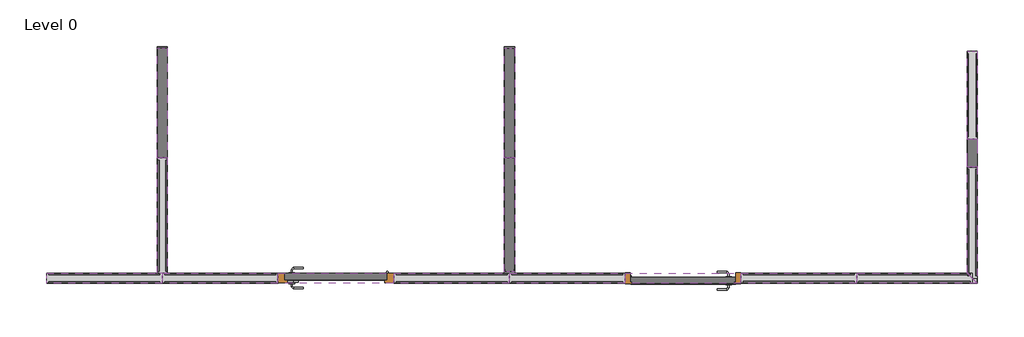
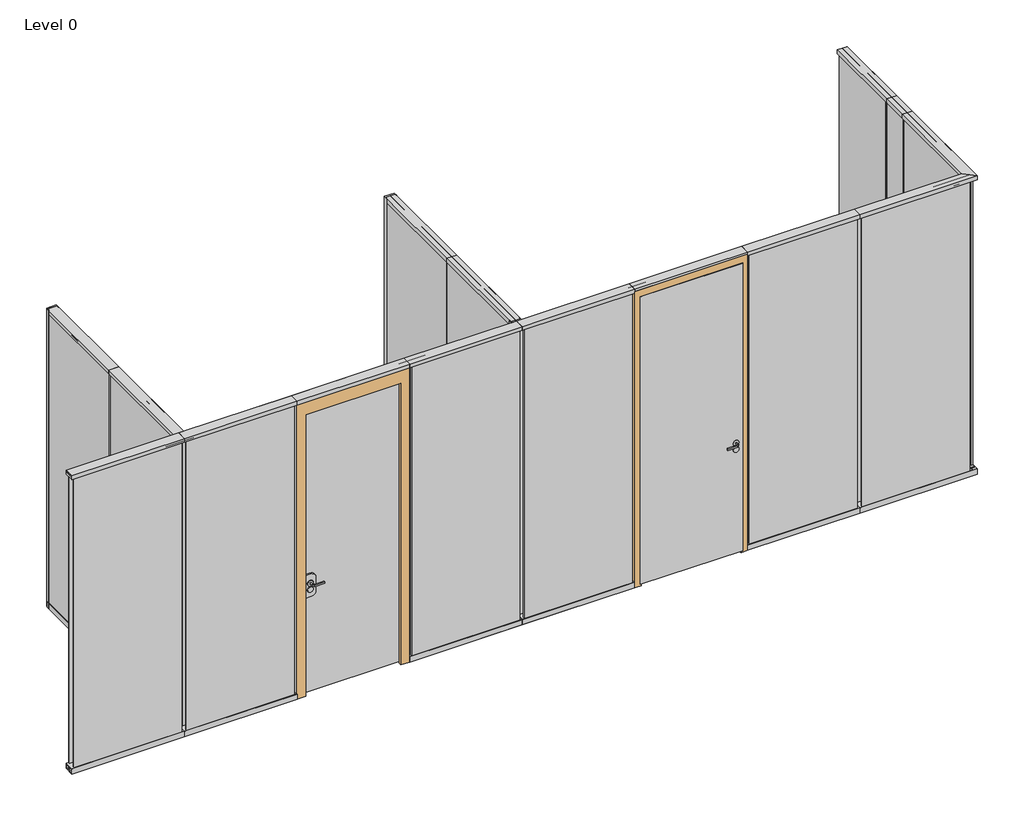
# One storey: 37 members, 16 plates, 2 doors, 2 proxies.
"""IFC4 building model written with IfcOpenShell, lengths in millimetres."""

from ifc_helpers import new_model, si_unit, origin, place, context, project, spatial, transform, mapped, element, save
from components import bat_m_6d0092cd, bat_m_2c35a260, door_8205e40b, door_bbba8e17, rectangular_mullion_08eab6f5, rectangular_mullion_90eb53d2, rectangular_mullion_5bdb3d18, rectangular_mullion_48ac8d12, rectangular_mullion_55831f8c, rectangular_mullion_2d9f5674, rectangular_mullion_78ad2c18, rectangular_mullion_06072e69, rectangular_mullion_d56148ed, rectangular_mullion_4f8e2eee, rectangular_mullion_606d2f1e, rectangular_mullion_87e775cd, rectangular_mullion_4e6522d5, rectangular_mullion_cce67675, rectangular_mullion_783a4c04, rectangular_mullion_9d9a7ddc, rectangular_mullion_2559ebc3, rectangular_mullion_cb49bed4, rectangular_mullion_af89d6a5, rectangular_mullion_junction_t1_94_t1_785bb957, plate_94_abm35_0e953f24, plate_94_abm35_25a5ff41, glazing_panel_dg_94_kdv1012_681713af, glazing_panel_dg_94_kdv1012_3f67e66a, glazing_panel_dg_94_kdv1012_88132442, glazing_panel_dg_94_kdv1012_3d991146, glazing_panel_dg_94_kdv1012_358c8b5d, glazing_panel_dg_94_kdv1012_673c4e6c, glazing_panel_dg_94_kdv6_8_02496a73, solid_panel_94_m_723be7b3, solid_panel_94_m_92e32ffe, solid_panel_94_m_255e5a5e, solid_panel_94_m_92d8dfe8

model = new_model("IFC4")

# Units and contexts
model_context = context("Model", 3, world=origin())
ifc_project = project(units=[si_unit("LENGTHUNIT", "METRE", prefix="MILLI")], contexts=[model_context])

# Site, building, storey
site = spatial("IfcSite", under=ifc_project)
building = spatial("IfcBuilding", under=site)
storey = spatial("IfcBuildingStorey", under=building, Name="Level 0", Elevation=0.0)

# Proxies
placement = place(None, origin())
bat_m_shape = bat_m_6d0092cd(model_context)
element("IfcBuildingElementProxy", 1, Name="BAT-M : Défaut", ObjectType="BAT-M : Défaut", at=placement, inside=storey, context=model_context, shape_type="MappedRepresentation", body=[
    mapped(bat_m_shape, transform((-5813.6986297, -2146.4457956, 0.0), x_axis=(-1.0, 0.0, 0.0), y_axis=(0.0, -1.0, 0.0), z_axis=(0.0, 0.0, 1.0))),
])
bat_m_2_shape = bat_m_2c35a260(model_context)
element("IfcBuildingElementProxy", 2, Name="BAT-M : 94-GOALFVITRE", ObjectType="BAT-M : 94-GOALFVITRE", at=placement, inside=storey, context=model_context, shape_type="MappedRepresentation", body=[
    mapped(bat_m_2_shape, transform((-7914.0986297, -2112.4457956, 0.0), x_axis=(1.0, 0.0, 0.0), y_axis=(0.0, 1.0, 0.0), z_axis=(0.0, 0.0, 1.0))),
])

# Doors
door_shape = door_8205e40b(model_context)
element("IfcDoor", 3, ObjectType="DOOR_PANEL-N-PTH : 94-PTHC61", at=placement, inside=storey, context=model_context, shape_type="MappedRepresentation", body=[
    mapped(door_shape, transform((-5358.6986297, -2153.9457956, 0.0), x_axis=(-1.0, 0.0, 0.0), y_axis=(0.0, -1.0, 0.0), z_axis=(0.0, 0.0, 1.0))),
])
door_2_shape = door_bbba8e17(model_context)
element("IfcDoor", 4, ObjectType="DOOR_PANEL-N-PTH : 94-PTHC55", at=placement, inside=storey, context=model_context, shape_type="MappedRepresentation", body=[
    mapped(door_2_shape, transform((-8358.6986297, -2153.9457956, 0.0), x_axis=(1.0, 0.0, 0.0), y_axis=(0.0, 1.0, 0.0), z_axis=(0.0, 0.0, 1.0))),
])

# Members
rectangular_mullion_shape = rectangular_mullion_08eab6f5(model_context)
element("IfcMember", 5, ObjectType="Rectangular Mullion : FLOOR_TRACK_CAP 94-KLS00-P80-SD41ALU", at=placement, inside=storey, context=model_context, shape_type="MappedRepresentation", body=[
    mapped(rectangular_mullion_shape, transform((-2858.6986297, -193.9457956, 0.0), x_axis=(0.0, 0.0, -1.0), y_axis=(-1.0, 0.0, 0.0), z_axis=(0.0, 1.0, 0.0))),
])
rectangular_mullion_2_shape = rectangular_mullion_90eb53d2(model_context)
element("IfcMember", 6, ObjectType="Rectangular Mullion : CEILING_TRACK_CAP 94-KLP00-P80-SD20ALU", at=placement, inside=storey, context=model_context, shape_type="MappedRepresentation", body=[
    mapped(rectangular_mullion_2_shape, transform((-2858.6986297, -953.5457956, 2800.0), x_axis=(0.0, 0.0, 1.0), y_axis=(-1.0, 0.0, 0.0), z_axis=(0.0, -1.0, 0.0))),
])
rectangular_mullion_3_shape = rectangular_mullion_5bdb3d18(model_context)
element("IfcMember", 7, ObjectType="Rectangular Mullion : CEILING_TRACK_CAP 94-KLP00-P80-SD20ALU", at=placement, inside=storey, context=model_context, shape_type="MappedRepresentation", body=[
    mapped(rectangular_mullion_3_shape, transform((-4858.6986297, -2153.9457956, 2800.0), x_axis=(0.0, 0.0, 1.0), y_axis=(0.0, 1.0, 0.0), z_axis=(-1.0, 0.0, 0.0))),
])
element("IfcMember", 8, ObjectType="Rectangular Mullion : CEILING_TRACK_CAP 94-KLP00-P80-SD20ALU", at=placement, inside=storey, context=model_context, shape_type="MappedRepresentation", body=[
    mapped(rectangular_mullion_3_shape, transform((-5858.6986297, -2153.9457956, 2800.0), x_axis=(0.0, 0.0, 1.0), y_axis=(0.0, 1.0, 0.0), z_axis=(-1.0, 0.0, 0.0))),
])
element("IfcMember", 9, ObjectType="Rectangular Mullion : CEILING_TRACK_CAP 94-KLP00-P80-SD20ALU", at=placement, inside=storey, context=model_context, shape_type="MappedRepresentation", body=[
    mapped(rectangular_mullion_3_shape, transform((-6858.6986297, -2153.9457956, 2800.0), x_axis=(0.0, 0.0, 1.0), y_axis=(0.0, 1.0, 0.0), z_axis=(-1.0, 0.0, 0.0))),
])
element("IfcMember", 10, ObjectType="Rectangular Mullion : CEILING_TRACK_CAP 94-KLP00-P80-SD20ALU", at=placement, inside=storey, context=model_context, shape_type="MappedRepresentation", body=[
    mapped(rectangular_mullion_3_shape, transform((-7858.6986297, -2153.9457956, 2800.0), x_axis=(0.0, 0.0, 1.0), y_axis=(0.0, 1.0, 0.0), z_axis=(-1.0, 0.0, 0.0))),
])
rectangular_mullion_4_shape = rectangular_mullion_48ac8d12(model_context)
element("IfcMember", 11, ObjectType="Rectangular Mullion : FLOOR_TRACK_CAP 94-KLS00-P80-SD41ALU", at=placement, inside=storey, context=model_context, shape_type="MappedRepresentation", body=[
    mapped(rectangular_mullion_4_shape, transform((-3858.6986297, -2153.9457956, 0.0), x_axis=(0.0, 0.0, -1.0), y_axis=(0.0, 1.0, 0.0), z_axis=(1.0, 0.0, 0.0))),
])
element("IfcMember", 12, ObjectType="Rectangular Mullion : FLOOR_TRACK_CAP 94-KLS00-P80-SD41ALU", at=placement, inside=storey, context=model_context, shape_type="MappedRepresentation", body=[
    mapped(rectangular_mullion_4_shape, transform((-9858.6986297, -2153.9457956, 0.0), x_axis=(0.0, 0.0, -1.0), y_axis=(0.0, 1.0, 0.0), z_axis=(1.0, 0.0, 0.0))),
])
element("IfcMember", 13, ObjectType="Rectangular Mullion : FLOOR_TRACK_CAP 94-KLS00-P80-SD41ALU", at=placement, inside=storey, context=model_context, shape_type="MappedRepresentation", body=[
    mapped(rectangular_mullion_4_shape, transform((-5858.6986297, -2153.9457956, 0.0), x_axis=(0.0, 0.0, -1.0), y_axis=(0.0, 1.0, 0.0), z_axis=(1.0, 0.0, 0.0))),
])
rectangular_mullion_5_shape = rectangular_mullion_55831f8c(model_context)
element("IfcMember", 14, ObjectType="Rectangular Mullion : FLOOR_TRACK_CAP 94-KLS00-P80-SD41ALU", at=placement, inside=storey, context=model_context, shape_type="MappedRepresentation", body=[
    mapped(rectangular_mullion_5_shape, transform((-6858.6986297, -2153.9457956, 0.0), x_axis=(0.0, 0.0, -1.0), y_axis=(0.0, 1.0, 0.0), z_axis=(1.0, 0.0, 0.0))),
])
element("IfcMember", 15, ObjectType="Rectangular Mullion : CEILING_TRACK_CAP 94-KLP00-P80-SD20ALU", at=placement, inside=storey, context=model_context, shape_type="MappedRepresentation", body=[
    mapped(rectangular_mullion_3_shape, transform((-8858.6986297, -2153.9457956, 2800.0), x_axis=(0.0, 0.0, 1.0), y_axis=(0.0, 1.0, 0.0), z_axis=(-1.0, 0.0, 0.0))),
])
element("IfcMember", 16, ObjectType="Rectangular Mullion : FLOOR_TRACK_CAP 94-KLS00-P80-SD41ALU", at=placement, inside=storey, context=model_context, shape_type="MappedRepresentation", body=[
    mapped(rectangular_mullion_5_shape, transform((-8858.2986297, -2153.9457956, 0.0), x_axis=(0.0, 0.0, -1.0), y_axis=(0.0, 1.0, 0.0), z_axis=(1.0, 0.0, 0.0))),
])
element("IfcMember", 17, ObjectType="Rectangular Mullion : CEILING_TRACK_CAP 94-KLP00-P80-SD20ALU", at=placement, inside=storey, context=model_context, shape_type="MappedRepresentation", body=[
    mapped(rectangular_mullion_3_shape, transform((-9858.6986297, -2153.9457956, 2800.0), x_axis=(0.0, 0.0, 1.0), y_axis=(0.0, 1.0, 0.0), z_axis=(-1.0, 0.0, 0.0))),
])
element("IfcMember", 18, ObjectType="Rectangular Mullion : CEILING_TRACK_CAP 94-KLP00-P80-SD20ALU", at=placement, inside=storey, context=model_context, shape_type="MappedRepresentation", body=[
    mapped(rectangular_mullion_3_shape, transform((-10858.6986297, -2153.9457956, 2800.0), x_axis=(0.0, 0.0, 1.0), y_axis=(0.0, 1.0, 0.0), z_axis=(-1.0, 0.0, 0.0))),
])
rectangular_mullion_6_shape = rectangular_mullion_2d9f5674(model_context)
element("IfcMember", 19, ObjectType="Rectangular Mullion : CEILING_TRACK_CAP 94-KLP00-P80-SD20ALU", at=placement, inside=storey, context=model_context, shape_type="MappedRepresentation", body=[
    mapped(rectangular_mullion_6_shape, transform((-9858.2986297, -1112.8457956, 2800.0), x_axis=(0.0, 0.0, 1.0), y_axis=(1.0, 0.0, 0.0), z_axis=(0.0, 1.0, 0.0))),
])
rectangular_mullion_7_shape = rectangular_mullion_78ad2c18(model_context)
element("IfcMember", 20, ObjectType="Rectangular Mullion : FLOOR_TRACK_CAP 94-KLS00-P80-SD41ALU", at=placement, inside=storey, context=model_context, shape_type="MappedRepresentation", body=[
    mapped(rectangular_mullion_7_shape, transform((-9858.2986297, -2112.4457956, 0.0), x_axis=(0.0, 0.0, -1.0), y_axis=(1.0, 0.0, 0.0), z_axis=(0.0, -1.0, 0.0))),
])
rectangular_mullion_8_shape = rectangular_mullion_06072e69(model_context)
element("IfcMember", 21, ObjectType="Rectangular Mullion : CEILING_TRACK_CAP 94-KLP00-P80-SD20ALU", at=placement, inside=storey, context=model_context, shape_type="MappedRepresentation", body=[
    mapped(rectangular_mullion_8_shape, transform((-6858.6986297, -1112.8457956, 2800.0), x_axis=(0.0, 0.0, 1.0), y_axis=(1.0, 0.0, 0.0), z_axis=(0.0, 1.0, 0.0))),
])
rectangular_mullion_9_shape = rectangular_mullion_d56148ed(model_context)
element("IfcMember", 22, ObjectType="Rectangular Mullion : FLOOR_TRACK_CAP 94-KLS00-P80-SD41ALU", at=placement, inside=storey, context=model_context, shape_type="MappedRepresentation", body=[
    mapped(rectangular_mullion_9_shape, transform((-6858.6986297, -2097.5457956, 0.0), x_axis=(0.0, 0.0, -1.0), y_axis=(1.0, 0.0, 0.0), z_axis=(0.0, -1.0, 0.0))),
])
rectangular_mullion_10_shape = rectangular_mullion_4f8e2eee(model_context)
element("IfcMember", 23, ObjectType="Rectangular Mullion : FLOOR_TRACK_CAP 94-KLS00-P80-SD41ALU", at=placement, inside=storey, context=model_context, shape_type="MappedRepresentation", body=[
    mapped(rectangular_mullion_10_shape, transform((-2858.6986297, -953.5457956, 0.0), x_axis=(0.0, 0.0, -1.0), y_axis=(-1.0, 0.0, 0.0), z_axis=(0.0, 1.0, 0.0))),
])
rectangular_mullion_11_shape = rectangular_mullion_606d2f1e(model_context)
element("IfcMember", 24, ObjectType="Rectangular Mullion : FLOOR_TRACK_CAP 94-KLS00-P80-SD41ALU", at=placement, inside=storey, context=model_context, shape_type="MappedRepresentation", body=[
    mapped(rectangular_mullion_11_shape, transform((-2858.6986297, -1193.5457956, 0.0), x_axis=(0.0, 0.0, -1.0), y_axis=(-1.0, 0.0, 0.0), z_axis=(0.0, 1.0, 0.0))),
])
rectangular_mullion_12_shape = rectangular_mullion_87e775cd(model_context)
element("IfcMember", 25, ObjectType="Rectangular Mullion : FLOOR_TRACK_CAP 94-KLS00-P80-SD41ALU", at=placement, inside=storey, context=model_context, shape_type="MappedRepresentation", body=[
    mapped(rectangular_mullion_12_shape, transform((-2858.6986297, -2153.9457956, 0.0), x_axis=(0.0, 0.0, -1.0), y_axis=(0.0, 1.0, 0.0), z_axis=(1.0, 0.0, 0.0))),
])
rectangular_mullion_13_shape = rectangular_mullion_4e6522d5(model_context)
element("IfcMember", 26, ObjectType="Rectangular Mullion : CEILING_TRACK_CAP 94-KLP00-P80-SD20ALU", at=placement, inside=storey, context=model_context, shape_type="MappedRepresentation", body=[
    mapped(rectangular_mullion_13_shape, transform((-2858.6986297, -1193.5457956, 2800.0), x_axis=(0.0, 0.0, 1.0), y_axis=(-1.0, 0.0, 0.0), z_axis=(0.0, -1.0, 0.0))),
])
rectangular_mullion_14_shape = rectangular_mullion_cce67675(model_context)
element("IfcMember", 27, ObjectType="Rectangular Mullion : FLOOR_TRACK_CAP 94-KLS00-P80-SD41ALU", at=placement, inside=storey, context=model_context, shape_type="MappedRepresentation", body=[
    mapped(rectangular_mullion_14_shape, transform((-6858.6986297, -1112.8457956, 0.0), x_axis=(0.0, 0.0, -1.0), y_axis=(1.0, 0.0, 0.0), z_axis=(0.0, -1.0, 0.0))),
])
rectangular_mullion_15_shape = rectangular_mullion_783a4c04(model_context)
element("IfcMember", 28, ObjectType="Rectangular Mullion : CEILING_TRACK_CAP 94-KLP00-P80-SD20ALU", at=placement, inside=storey, context=model_context, shape_type="MappedRepresentation", body=[
    mapped(rectangular_mullion_15_shape, transform((-6858.6986297, -168.5457956, 2800.0), x_axis=(0.0, 0.0, 1.0), y_axis=(1.0, 0.0, 0.0), z_axis=(0.0, 1.0, 0.0))),
])
rectangular_mullion_16_shape = rectangular_mullion_9d9a7ddc(model_context)
element("IfcMember", 29, ObjectType="Rectangular Mullion : FLOOR_TRACK_CAP 94-KLS00-P80-SD41ALU", at=placement, inside=storey, context=model_context, shape_type="MappedRepresentation", body=[
    mapped(rectangular_mullion_16_shape, transform((-9858.2986297, -1112.8457956, 0.0), x_axis=(0.0, 0.0, -1.0), y_axis=(1.0, 0.0, 0.0), z_axis=(0.0, -1.0, 0.0))),
])
rectangular_mullion_17_shape = rectangular_mullion_2559ebc3(model_context)
element("IfcMember", 30, ObjectType="Rectangular Mullion : CEILING_TRACK_CAP 94-KLP00-P80-SD20ALU", at=placement, inside=storey, context=model_context, shape_type="MappedRepresentation", body=[
    mapped(rectangular_mullion_17_shape, transform((-9858.2986297, -167.0457956, 2800.0), x_axis=(0.0, 0.0, 1.0), y_axis=(1.0, 0.0, 0.0), z_axis=(0.0, 1.0, 0.0))),
])
rectangular_mullion_18_shape = rectangular_mullion_cb49bed4(model_context)
element("IfcMember", 31, ObjectType="Rectangular Mullion : CEILING_TRACK_CAP 94-KLP00-P80-SD20ALU", at=placement, inside=storey, context=model_context, shape_type="MappedRepresentation", body=[
    mapped(rectangular_mullion_18_shape, transform((-2858.6986297, -2153.9457956, 2800.0), x_axis=(0.0, 0.0, 1.0), y_axis=(-1.0, 0.0, 0.0), z_axis=(0.0, -1.0, 0.0))),
])
rectangular_mullion_19_shape = rectangular_mullion_af89d6a5(model_context)
element("IfcMember", 32, ObjectType="Rectangular Mullion : CEILING_TRACK_CAP 94-KLP00-P80-SD20ALU", at=placement, inside=storey, context=model_context, shape_type="MappedRepresentation", body=[
    mapped(rectangular_mullion_19_shape, transform((-3858.6986297, -2153.9457956, 2800.0), x_axis=(0.0, 0.0, 1.0), y_axis=(0.0, 1.0, 0.0), z_axis=(-1.0, 0.0, 0.0))),
])
rectangular_mullion_junction_t1_94_t1_shape = rectangular_mullion_junction_t1_94_t1_785bb957(model_context)
element("IfcMember", 33, ObjectType="Rectangular Mullion : JUNCTION-T1 94-T1", at=placement, inside=storey, context=model_context, shape_type="MappedRepresentation", body=[
    mapped(rectangular_mullion_junction_t1_94_t1_shape, transform((-7858.6986297, -2153.9457956, 50.0), x_axis=(-1.0, 0.0, 0.0), y_axis=(0.0, 1.0, 0.0), z_axis=(0.0, 0.0, -1.0))),
])
element("IfcMember", 34, ObjectType="Rectangular Mullion : JUNCTION-T1 94-T1", at=placement, inside=storey, context=model_context, shape_type="MappedRepresentation", body=[
    mapped(rectangular_mullion_junction_t1_94_t1_shape, transform((-8858.6986297, -2153.9457956, 50.0), x_axis=(-1.0, 0.0, 0.0), y_axis=(0.0, 1.0, 0.0), z_axis=(0.0, 0.0, -1.0))),
])
element("IfcMember", 35, ObjectType="Rectangular Mullion : JUNCTION-T1 94-T1", at=placement, inside=storey, context=model_context, shape_type="MappedRepresentation", body=[
    mapped(rectangular_mullion_junction_t1_94_t1_shape, transform((-2858.6986297, -953.5457956, 50.0), x_axis=(0.0, -1.0, 0.0), y_axis=(-1.0, 0.0, 0.0), z_axis=(0.0, 0.0, -1.0))),
])
element("IfcMember", 36, ObjectType="Rectangular Mullion : JUNCTION-T1 94-T1", at=placement, inside=storey, context=model_context, shape_type="MappedRepresentation", body=[
    mapped(rectangular_mullion_junction_t1_94_t1_shape, transform((-9858.2986297, -1112.8457956, 50.0), x_axis=(0.0, 1.0, 0.0), y_axis=(1.0, 0.0, 0.0), z_axis=(0.0, 0.0, -1.0))),
])
element("IfcMember", 37, ObjectType="Rectangular Mullion : JUNCTION-T1 94-T1", at=placement, inside=storey, context=model_context, shape_type="MappedRepresentation", body=[
    mapped(rectangular_mullion_junction_t1_94_t1_shape, transform((-6858.6986297, -1112.8457956, 50.0), x_axis=(0.0, 1.0, 0.0), y_axis=(1.0, 0.0, 0.0), z_axis=(0.0, 0.0, -1.0))),
])
element("IfcMember", 38, ObjectType="Rectangular Mullion : JUNCTION-T1 94-T1", at=placement, inside=storey, context=model_context, shape_type="MappedRepresentation", body=[
    mapped(rectangular_mullion_junction_t1_94_t1_shape, transform((-9858.2986297, -167.4457956, 50.0), x_axis=(0.0, 1.0, 0.0), y_axis=(1.0, 0.0, 0.0), z_axis=(0.0, 0.0, -1.0))),
])
element("IfcMember", 39, ObjectType="Rectangular Mullion : JUNCTION-T1 94-T1", at=placement, inside=storey, context=model_context, shape_type="MappedRepresentation", body=[
    mapped(rectangular_mullion_junction_t1_94_t1_shape, transform((-6858.6986297, -168.9457956, 50.0), x_axis=(0.0, 1.0, 0.0), y_axis=(1.0, 0.0, 0.0), z_axis=(0.0, 0.0, -1.0))),
])
element("IfcMember", 40, ObjectType="Rectangular Mullion : JUNCTION-T1 94-T1", at=placement, inside=storey, context=model_context, shape_type="MappedRepresentation", body=[
    mapped(rectangular_mullion_junction_t1_94_t1_shape, transform((-6858.6986297, -2097.1457956, 50.0), x_axis=(0.0, 1.0, 0.0), y_axis=(1.0, 0.0, 0.0), z_axis=(0.0, 0.0, -1.0))),
])
element("IfcMember", 41, ObjectType="Rectangular Mullion : JUNCTION-T1 94-T1", at=placement, inside=storey, context=model_context, shape_type="MappedRepresentation", body=[
    mapped(rectangular_mullion_junction_t1_94_t1_shape, transform((-2858.6986297, -1193.5457956, 50.0), x_axis=(0.0, -1.0, 0.0), y_axis=(-1.0, 0.0, 0.0), z_axis=(0.0, 0.0, -1.0))),
])

# Plates
plate_94_abm35_shape = plate_94_abm35_0e953f24(model_context)
element("IfcPlate", 42, ObjectType="END_FILLER-ABM_U-MUR-M : 94-ABM35", at=placement, inside=storey, context=model_context, shape_type="MappedRepresentation", body=[
    mapped(plate_94_abm35_shape, transform((-6858.6986297, -2104.9957956, 0.0), x_axis=(0.0, 1.0, 0.0), y_axis=(-1.0, 0.0, 0.0), z_axis=(0.0, 0.0, 1.0))),
])
plate_94_abm35_2_shape = plate_94_abm35_25a5ff41(model_context)
element("IfcPlate", 43, ObjectType="END_FILLER-ABM_U-MUR-M : 94-ABM35", at=placement, inside=storey, context=model_context, shape_type="MappedRepresentation", body=[
    mapped(plate_94_abm35_2_shape, transform((-9858.2986297, -159.7457956, 0.0), x_axis=(0.0, -1.0, 0.0), y_axis=(1.0, 0.0, 0.0), z_axis=(0.0, 0.0, 1.0))),
])
element("IfcPlate", 44, ObjectType="END_FILLER-ABM_U-MUR-M : 94-ABM35", at=placement, inside=storey, context=model_context, shape_type="MappedRepresentation", body=[
    mapped(plate_94_abm35_2_shape, transform((-6858.6986297, -161.2457956, 0.0), x_axis=(0.0, -1.0, 0.0), y_axis=(1.0, 0.0, 0.0), z_axis=(0.0, 0.0, 1.0))),
])
glazing_panel_dg_94_kdv1012_shape = glazing_panel_dg_94_kdv1012_681713af(model_context)
element("IfcPlate", 45, ObjectType="GLAZING_PANEL_DG : 94-KDV1012", at=placement, inside=storey, context=model_context, shape_type="MappedRepresentation", body=[
    mapped(glazing_panel_dg_94_kdv1012_shape, transform((-10358.6986297, -2153.9457956, 41.0), x_axis=(-1.0, 0.0, 0.0), y_axis=(0.0, -1.0, 0.0), z_axis=(0.0, 0.0, 1.0))),
])
glazing_panel_dg_94_kdv1012_2_shape = glazing_panel_dg_94_kdv1012_3f67e66a(model_context)
element("IfcPlate", 46, ObjectType="GLAZING_PANEL_DG : 94-KDV1012", at=placement, inside=storey, context=model_context, shape_type="MappedRepresentation", body=[
    mapped(glazing_panel_dg_94_kdv1012_2_shape, transform((-9358.8986297, -2153.9457956, 41.0), x_axis=(1.0, 0.0, 0.0), y_axis=(0.0, 1.0, 0.0), z_axis=(0.0, 0.0, 1.0))),
])
glazing_panel_dg_94_kdv1012_3_shape = glazing_panel_dg_94_kdv1012_88132442(model_context)
element("IfcPlate", 47, ObjectType="GLAZING_PANEL_DG : 94-KDV1012", at=placement, inside=storey, context=model_context, shape_type="MappedRepresentation", body=[
    mapped(glazing_panel_dg_94_kdv1012_3_shape, transform((-9858.2986297, -1612.8457956, 41.0), x_axis=(0.0, 1.0, 0.0), y_axis=(-1.0, 0.0, 0.0), z_axis=(0.0, 0.0, 1.0))),
])
glazing_panel_dg_94_kdv1012_4_shape = glazing_panel_dg_94_kdv1012_3d991146(model_context)
element("IfcPlate", 48, ObjectType="GLAZING_PANEL_DG : 94-KDV1012", at=placement, inside=storey, context=model_context, shape_type="MappedRepresentation", body=[
    mapped(glazing_panel_dg_94_kdv1012_4_shape, transform((-7358.4986297, -2153.9457956, 41.0), x_axis=(-1.0, 0.0, 0.0), y_axis=(0.0, -1.0, 0.0), z_axis=(0.0, 0.0, 1.0))),
])
element("IfcPlate", 49, ObjectType="GLAZING_PANEL_DG : 94-KDV1012", at=placement, inside=storey, context=model_context, shape_type="MappedRepresentation", body=[
    mapped(glazing_panel_dg_94_kdv1012_shape, transform((-6358.6986297, -2153.9457956, 41.0), x_axis=(-1.0, 0.0, 0.0), y_axis=(0.0, -1.0, 0.0), z_axis=(0.0, 0.0, 1.0))),
])
glazing_panel_dg_94_kdv1012_5_shape = glazing_panel_dg_94_kdv1012_358c8b5d(model_context)
element("IfcPlate", 50, ObjectType="GLAZING_PANEL_DG : 94-KDV1012", at=placement, inside=storey, context=model_context, shape_type="MappedRepresentation", body=[
    mapped(glazing_panel_dg_94_kdv1012_5_shape, transform((-4358.6986297, -2153.9457956, 41.0), x_axis=(-1.0, 0.0, 0.0), y_axis=(0.0, -1.0, 0.0), z_axis=(0.0, 0.0, 1.0))),
])
element("IfcPlate", 51, ObjectType="GLAZING_PANEL_DG : 94-KDV1012", at=placement, inside=storey, context=model_context, shape_type="MappedRepresentation", body=[
    mapped(glazing_panel_dg_94_kdv1012_5_shape, transform((-3358.6986297, -2153.9457956, 41.0), x_axis=(-1.0, 0.0, 0.0), y_axis=(0.0, -1.0, 0.0), z_axis=(0.0, 0.0, 1.0))),
])
glazing_panel_dg_94_kdv1012_6_shape = glazing_panel_dg_94_kdv1012_673c4e6c(model_context)
element("IfcPlate", 52, ObjectType="GLAZING_PANEL_DG : 94-KDV1012", at=placement, inside=storey, context=model_context, shape_type="MappedRepresentation", body=[
    mapped(glazing_panel_dg_94_kdv1012_6_shape, transform((-2858.6986297, -1673.9457956, 41.0), x_axis=(0.0, -1.0, 0.0), y_axis=(1.0, 0.0, 0.0), z_axis=(0.0, 0.0, 1.0))),
])
glazing_panel_dg_94_kdv6_8_shape = glazing_panel_dg_94_kdv6_8_02496a73(model_context)
element("IfcPlate", 53, ObjectType="GLAZING_PANEL_DG : 94-KDV6_8", at=placement, inside=storey, context=model_context, shape_type="MappedRepresentation", body=[
    mapped(glazing_panel_dg_94_kdv6_8_shape, transform((-2858.6986297, -573.5457956, 41.0), x_axis=(0.0, -1.0, 0.0), y_axis=(1.0, 0.0, 0.0), z_axis=(0.0, 0.0, 1.0))),
])
solid_panel_94_m_shape = solid_panel_94_m_723be7b3(model_context)
element("IfcPlate", 54, ObjectType="SOLID_PANEL : 94-M", at=placement, inside=storey, context=model_context, shape_type="MappedRepresentation", body=[
    mapped(solid_panel_94_m_shape, transform((-2858.6986297, -1073.5457956, 41.0), x_axis=(0.0, -1.0, 0.0), y_axis=(1.0, 0.0, 0.0), z_axis=(0.0, 0.0, 1.0))),
])
solid_panel_94_m_2_shape = solid_panel_94_m_92e32ffe(model_context)
element("IfcPlate", 55, ObjectType="SOLID_PANEL : 94-M", at=placement, inside=storey, context=model_context, shape_type="MappedRepresentation", body=[
    mapped(solid_panel_94_m_2_shape, transform((-9858.2986297, -640.1457956, 41.0), x_axis=(0.0, 1.0, 0.0), y_axis=(-1.0, 0.0, 0.0), z_axis=(0.0, 0.0, 1.0))),
])
solid_panel_94_m_3_shape = solid_panel_94_m_255e5a5e(model_context)
element("IfcPlate", 56, ObjectType="SOLID_PANEL : 94-M", at=placement, inside=storey, context=model_context, shape_type="MappedRepresentation", body=[
    mapped(solid_panel_94_m_3_shape, transform((-6858.6986297, -640.8957956, 41.0), x_axis=(0.0, 1.0, 0.0), y_axis=(-1.0, 0.0, 0.0), z_axis=(0.0, 0.0, 1.0))),
])
solid_panel_94_m_4_shape = solid_panel_94_m_92d8dfe8(model_context)
element("IfcPlate", 57, ObjectType="SOLID_PANEL : 94-M", at=placement, inside=storey, context=model_context, shape_type="MappedRepresentation", body=[
    mapped(solid_panel_94_m_4_shape, transform((-6858.6986297, -1604.9957956, 41.0), x_axis=(0.0, 1.0, 0.0), y_axis=(-1.0, 0.0, 0.0), z_axis=(0.0, 0.0, 1.0))),
])

save(model, "model.ifc")
